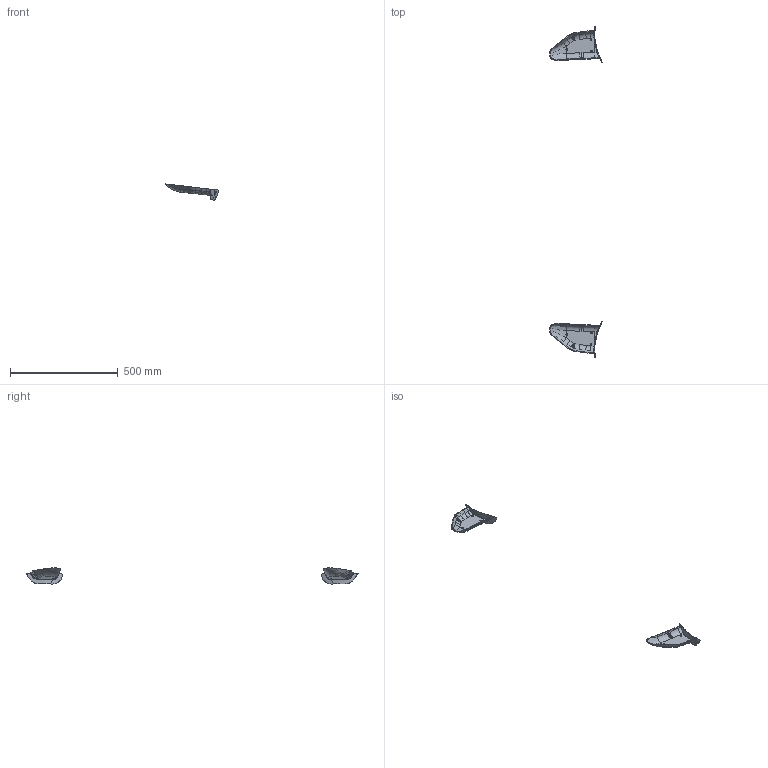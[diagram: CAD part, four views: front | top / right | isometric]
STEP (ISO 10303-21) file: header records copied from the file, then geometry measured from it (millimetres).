
FILE_DESCRIPTION(('ANSA STEP Exchange Structure File'),'2;1');
FILE_NAME('C:/Users/bhupertz/Desktop/DrivAer_Aux_CAD_240401/23_FrontWheelDeflector.step','2024-04-10T12:38',('bhupertz'),('none'),'ANSA 23.1.1','ANSA 23.1.1 AP214','none');
FILE_SCHEMA(('AUTOMOTIVE_DESIGN { 1 0 10303 214 1 1 1 1 }'));
Length unit declared in the file: millimetre
Products named in the file (1): 23_FrontWheelDeflector
Bounding box: 245.32 x 1544.17 x 74.64 mm (x, y, z)
Surface area: 149123.7 mm2 (no closed solid volume)
Topology: 0 solids, 2 shells, 270 faces, 702 edges, 424 vertices
Faces by surface type: bspline 270
Entity records: 74022 total; most frequent: CARTESIAN_POINT 69763, ORIENTED_EDGE 1350, B_SPLINE_CURVE_WITH_KNOTS 682, EDGE_CURVE 682, VERTEX_POINT 422, EDGE_LOOP 278, FACE_OUTER_BOUND 270, ADVANCED_FACE 270
